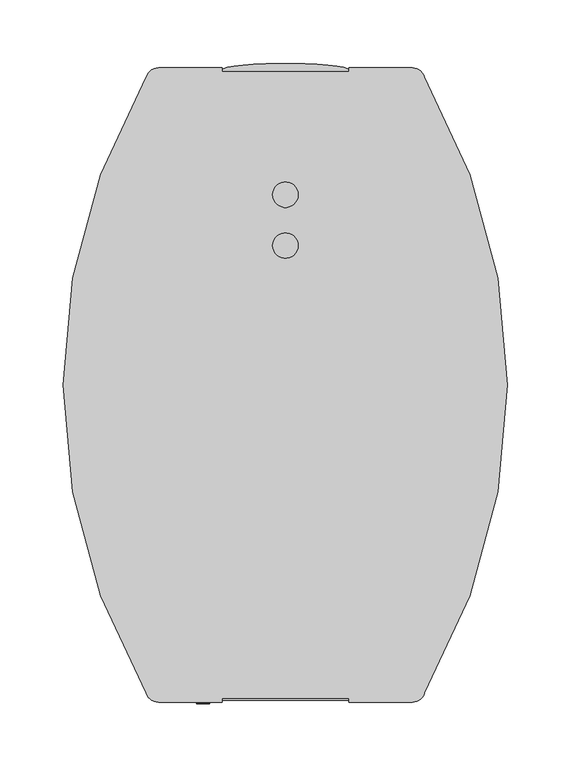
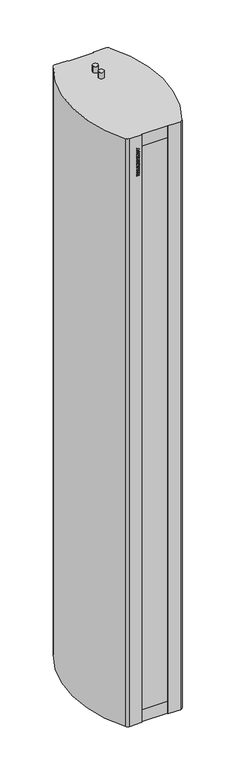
"""IFC4 building model written with IfcOpenShell, lengths in millimetres: proxy geometry, ADSK_Завеса дизайнерская_Водяная : KVC-S25W45-31."""

from ifc_helpers import new_model, si_unit, point, frame, origin, place, context, project, spatial, polyline, circle_curve, ellipse_curve, trimmed, outline, extrude, faceted_brep, source, transform, mapped, element, save
from ifc_brep_helpers import plane_surface, cylinder_surface, extruded_surface, advanced_brep


def mechanical_equipment_da6643d4(model_context):
    return source(origin(), model_context, "Body", "SolidModel", [
        extrude(outline(polyline([(2250.0784314, -70.0), (2250.0784314, -60.0), (2253.2156863, -60.0), (2253.2156863, -61.7647059), (2254.9865196, -63.7745098), (2256.8186275, -60.0), (2260.6666667, -60.0), (2257.192402, -66.2775735), (2260.4705882, -70.0), (2256.1997549, -70.0), (2253.2156863, -66.2224265), (2253.2156863, -70.0), (2250.0784314, -70.0)])), frame((0.0, -251.0, 0.0), z_axis=(0.0, 1.0, 0.0), x_axis=(0.0, 0.0, 1.0)), (0.0, 0.0, 1.0), 1.0),
        extrude(outline(polyline([(2267.6642157, -61.5686275), (2268.1176471, -60.0), (2271.4509804, -60.0), (2268.0778186, -70.0), (2264.0398284, -70.0), (2260.6666667, -60.0), (2264.0, -60.0), (2264.4319853, -61.5686275), (2267.6642157, -61.5686275)]), holes=[polyline([(2267.0698529, -63.9215686), (2265.0814951, -63.9215686), (2266.0588235, -67.4540441), (2267.0698529, -63.9215686)])]), frame((0.0, -251.0, 0.0), z_axis=(0.0, 1.0, 0.0), x_axis=(0.0, 0.0, 1.0)), (0.0, 0.0, 1.0), 1.0),
        extrude(outline(polyline([(2272.4313725, -70.0), (2272.4313725, -60.0), (2280.2745098, -60.0), (2280.2745098, -62.3529412), (2275.5686275, -62.3529412), (2275.5686275, -70.0), (2272.4313725, -70.0)])), frame((0.0, -251.0, 0.0), z_axis=(0.0, 1.0, 0.0), x_axis=(0.0, 0.0, 1.0)), (0.0, 0.0, 1.0), 1.0),
        extrude(outline(polyline([(2287.6642157, -61.5686275), (2288.1176471, -60.0), (2291.4509804, -60.0), (2288.0778186, -70.0), (2284.0398284, -70.0), (2280.6666667, -60.0), (2284.0, -60.0), (2284.4319853, -61.5686275), (2287.6642157, -61.5686275)]), holes=[polyline([(2287.0698529, -63.9215686), (2285.0814951, -63.9215686), (2286.0588235, -67.4540441), (2287.0698529, -63.9215686)])]), frame((0.0, -251.0, 0.0), z_axis=(0.0, 1.0, 0.0), x_axis=(0.0, 0.0, 1.0)), (0.0, 0.0, 1.0), 1.0),
        extrude(outline(polyline([(2291.8431373, -63.3394608), (2292.9491422, -60.8026961), (2296.4601716, -59.8039216), (2298.8560049, -60.2297794), (2300.3342525, -61.4813113), (2300.8627451, -63.28125), (2300.4675245, -64.7870711), (2299.2022059, -65.9129902), (2296.3223039, -66.8106618), (2296.1905637, -68.4313725), (2296.9641544, -68.1050858), (2297.3333333, -67.0588235), (2300.4705882, -67.2395833), (2299.2925858, -69.4883578), (2296.4172794, -70.1960784), (2293.9969363, -69.8039216), (2292.6749387, -68.7285539), (2292.2352941, -67.276348), (2293.1023284, -65.3492647), (2295.9761029, -64.1237745), (2297.7254902, -62.8186275), (2297.4114583, -62.0818015), (2296.5183824, -61.7647059), (2295.3204657, -62.3958333), (2294.9803922, -63.5294118), (2291.8431373, -63.3394608)])), frame((0.0, -251.0, 0.0), z_axis=(0.0, 1.0, 0.0), x_axis=(0.0, 0.0, 1.0)), (0.0, 0.0, 1.0), 1.0),
        extrude(outline(polyline([(2302.4313725, -70.0), (2302.4313725, -60.0), (2305.5686275, -60.0), (2305.5686275, -64.1176471), (2308.9019608, -64.1176471), (2308.9019608, -60.0), (2312.0392157, -60.0), (2312.0392157, -70.0), (2308.9019608, -70.0), (2308.9019608, -66.4705882), (2305.5686275, -66.4705882), (2305.5686275, -70.0), (2302.4313725, -70.0)])), frame((0.0, -251.0, 0.0), z_axis=(0.0, 1.0, 0.0), x_axis=(0.0, 0.0, 1.0)), (0.0, 0.0, 1.0), 1.0),
        extrude(outline(polyline([(2314.0, -70.0), (2314.0, -60.0), (2316.9411765, -60.0), (2316.9411765, -65.4901961), (2320.6666667, -60.0), (2323.6078431, -60.0), (2323.6078431, -70.0), (2320.6666667, -70.0), (2320.6666667, -64.4730392), (2316.9197304, -70.0), (2314.0, -70.0)])), frame((0.0, -251.0, 0.0), z_axis=(0.0, 1.0, 0.0), x_axis=(0.0, 0.0, 1.0)), (0.0, 0.0, 1.0), 1.0),
        extrude(outline(polyline([(-60.0, -251.0), (-70.0, -251.0), (-70.0, -250.0), (-60.0, -250.0), (-60.0, -251.0)])), frame((0.0, 0.0, 2325.7647059), z_axis=(0.0, 0.0, 1.0), x_axis=(1.0, 0.0, 0.0)), (0.0, 0.0, 1.0), 3.1372549),
        extrude(outline(polyline([(2331.0588235, -70.0), (2331.0588235, -60.0), (2334.1960784, -60.0), (2334.1960784, -61.7647059), (2335.9669118, -63.7745098), (2337.7990196, -60.0), (2341.6470588, -60.0), (2338.1727941, -66.2775735), (2341.4509804, -70.0), (2337.1801471, -70.0), (2334.1960784, -66.2224265), (2334.1960784, -70.0), (2331.0588235, -70.0)])), frame((0.0, -251.0, 0.0), z_axis=(0.0, 1.0, 0.0), x_axis=(0.0, 0.0, 1.0)), (0.0, 0.0, 1.0), 1.0),
        extrude(outline(polyline([(2342.2352941, -64.9938725), (2342.9261642, -62.0603554), (2344.7291667, -60.346201), (2347.5386029, -59.8039216), (2350.3250613, -60.4304534), (2352.036152, -62.1859681), (2352.627451, -65.0765931), (2351.2732843, -68.8495711), (2347.4129902, -70.1960784), (2343.6032475, -68.8250613), (2342.2352941, -64.9938725)]), holes=[polyline([(2345.372549, -64.9938725), (2345.9301471, -67.1813725), (2347.4068627, -67.8431373), (2348.9295343, -67.1920956), (2349.4901961, -65.1286765), (2348.9525123, -62.8048407), (2347.4344363, -62.1568627), (2345.9270833, -62.8186275), (2345.372549, -64.9938725)])]), frame((0.0, -251.0, 0.0), z_axis=(0.0, 1.0, 0.0), x_axis=(0.0, 0.0, 1.0)), (0.0, 0.0, 1.0), 1.0),
        extrude(outline(polyline([(2353.4117647, -70.0), (2357.1280637, -60.0), (2360.4583333, -60.0), (2364.1960784, -70.0), (2360.8627451, -70.0), (2358.8039216, -62.8033088), (2356.7420343, -70.0), (2353.4117647, -70.0)])), frame((0.0, -251.0, 0.0), z_axis=(0.0, 1.0, 0.0), x_axis=(0.0, 0.0, 1.0)), (0.0, 0.0, 1.0), 1.0),
        advanced_brep(
        [(-50.0, 250.0, 2414.0), (-100.0, 250.0, 2414.0), (-109.6523684, 242.6137681, 2414.0), (-109.6523684, -242.6137681, 2414.0), (-100.0, -250.0, 2414.0), (-50.0, -250.0, 2414.0), (-50.0, -247.0, 2414.0), (50.0, -247.0, 2414.0), (50.0, -250.0, 2414.0), (100.0, -250.0, 2414.0), (109.6523684, -242.6137681, 2414.0), (109.6523684, 242.6137681, 2414.0), (100.0, 250.0, 2414.0), (50.0, 250.0, 2414.0), (50.0, 247.0, 2414.0), (-50.0, 247.0, 2414.0), (10.0, 150.0, 2414.0), (-10.0, 150.0, 2414.0), (10.0, 110.0, 2414.0), (-10.0, 110.0, 2414.0), (-50.0, 250.0, 0.0), (-50.0, 247.0, 0.0), (50.0, 247.0, 0.0), (50.0, 250.0, 0.0), (100.0, 250.0, 0.0), (109.6523684, 242.6137681, 0.0), (109.6523684, -242.6137681, 0.0), (100.0, -250.0, 0.0), (50.0, -250.0, 0.0), (50.0, -247.0, 0.0), (-50.0, -247.0, 0.0), (-50.0, -250.0, 0.0), (-100.0, -250.0, 0.0), (-109.6523684, -242.6137681, 0.0), (-109.6523684, 242.6137681, 0.0), (-100.0, 250.0, 0.0), (-10.0, 150.0, 2439.0), (10.0, 150.0, 2439.0), (-10.0, 110.0, 2439.0), (10.0, 110.0, 2439.0)],
        [
            (0, 1),
            (1, 2, circle_curve(frame((-100.0, 240.0, 2414.0), z_axis=(0.0, 0.0, 1.0), x_axis=(1.0, 0.0, 0.0)), 10.0)),
            (2, 3, circle_curve(frame((308.0454594, 0.0, 2414.0), z_axis=(0.0, 0.0, 1.0), x_axis=(1.0, 0.0, 0.0)), 483.0454594)),
            (3, 4, circle_curve(frame((-100.0, -240.0, 2414.0), z_axis=(0.0, 0.0, 1.0), x_axis=(1.0, 0.0, 0.0)), 10.0)),
            (4, 5),
            (5, 6),
            (6, 7),
            (7, 8),
            (8, 9),
            (9, 10, circle_curve(frame((100.0, -240.0, 2414.0), z_axis=(0.0, 0.0, 1.0), x_axis=(1.0, 0.0, 0.0)), 10.0)),
            (10, 11, circle_curve(frame((-308.0454594, 0.0, 2414.0), z_axis=(0.0, 0.0, 1.0), x_axis=(1.0, 0.0, 0.0)), 483.0454594)),
            (11, 12, circle_curve(frame((100.0, 240.0, 2414.0), z_axis=(0.0, 0.0, 1.0), x_axis=(1.0, 0.0, 0.0)), 10.0)),
            (12, 13),
            (13, 14),
            (14, 15),
            (15, 0),
            (16, 17, circle_curve(frame((0.0, 150.0, 2414.0), z_axis=(0.0, 0.0, -1.0), x_axis=(1.0, 0.0, 0.0)), 10.0)),
            (17, 16, circle_curve(frame((0.0, 150.0, 2414.0), z_axis=(0.0, 0.0, -1.0), x_axis=(1.0, 0.0, 0.0)), 10.0)),
            (18, 19, circle_curve(frame((0.0, 110.0, 2414.0), z_axis=(0.0, 0.0, -1.0), x_axis=(1.0, 0.0, 0.0)), 10.0)),
            (19, 18, circle_curve(frame((0.0, 110.0, 2414.0), z_axis=(0.0, 0.0, -1.0), x_axis=(1.0, 0.0, 0.0)), 10.0)),
            (20, 21),
            (21, 22),
            (22, 23),
            (23, 24),
            (24, 25, circle_curve(frame((100.0, 240.0, 0.0), z_axis=(0.0, 0.0, -1.0), x_axis=(1.0, 0.0, 0.0)), 10.0)),
            (25, 26, circle_curve(frame((-308.0454594, 0.0, 0.0), z_axis=(0.0, 0.0, -1.0), x_axis=(1.0, 0.0, 0.0)), 483.0454594)),
            (26, 27, circle_curve(frame((100.0, -240.0, 0.0), z_axis=(0.0, 0.0, -1.0), x_axis=(1.0, 0.0, 0.0)), 10.0)),
            (27, 28),
            (28, 29),
            (29, 30),
            (30, 31),
            (31, 32),
            (32, 33, circle_curve(frame((-100.0, -240.0, 0.0), z_axis=(0.0, 0.0, -1.0), x_axis=(1.0, 0.0, 0.0)), 10.0)),
            (33, 34, circle_curve(frame((308.0454594, 0.0, 0.0), z_axis=(0.0, 0.0, -1.0), x_axis=(1.0, 0.0, 0.0)), 483.0454594)),
            (34, 35, circle_curve(frame((-100.0, 240.0, 0.0), z_axis=(0.0, 0.0, -1.0), x_axis=(1.0, 0.0, 0.0)), 10.0)),
            (35, 20),
            (0, 20),
            (35, 1),
            (34, 2),
            (33, 3),
            (32, 4),
            (8, 28),
            (27, 9),
            (31, 5),
            (30, 6),
            (29, 7),
            (12, 24),
            (23, 13),
            (22, 14),
            (21, 15),
            (36, 37, circle_curve(frame((0.0, 150.0, 2439.0), z_axis=(0.0, 0.0, 1.0), x_axis=(1.0, 0.0, 0.0)), 10.0)),
            (37, 36, circle_curve(frame((0.0, 150.0, 2439.0), z_axis=(0.0, 0.0, 1.0), x_axis=(1.0, 0.0, 0.0)), 10.0)),
            (38, 39, circle_curve(frame((0.0, 110.0, 2439.0), z_axis=(0.0, 0.0, 1.0), x_axis=(1.0, 0.0, 0.0)), 10.0)),
            (39, 38, circle_curve(frame((0.0, 110.0, 2439.0), z_axis=(0.0, 0.0, 1.0), x_axis=(1.0, 0.0, 0.0)), 10.0)),
            (36, 17),
            (16, 37),
            (38, 19),
            (18, 39),
            (26, 10),
            (25, 11),
        ],
        [
            plane_surface(frame((-93.2688019, 250.0, 2414.0), z_axis=(0.0, 0.0, 1.0), x_axis=(-1.0, 0.0, 0.0))),
            plane_surface(frame((-93.2688019, 250.0, 0.0), z_axis=(0.0, 0.0, -1.0), x_axis=(1.0, 0.0, 0.0))),
            plane_surface(frame((-50.0, 250.0, 2414.0), z_axis=(0.0, 1.0, 0.0), x_axis=(0.0, 0.0, -1.0))),
            cylinder_surface(frame((-100.0, 240.0, 0.0), z_axis=(0.0, 0.0, 1.0), x_axis=(1.0, 0.0, 0.0)), 10.0),
            cylinder_surface(frame((308.0454594, 0.0, 0.0), z_axis=(0.0, 0.0, 1.0), x_axis=(1.0, 0.0, 0.0)), 483.0454594),
            cylinder_surface(frame((-100.0, -240.0, 0.0), z_axis=(0.0, 0.0, 1.0), x_axis=(1.0, 0.0, 0.0)), 10.0),
            plane_surface(frame((50.0, -250.0, 2414.0), z_axis=(0.0, -1.0, 0.0), x_axis=(0.0, 0.0, -1.0))),
            plane_surface(frame((-100.0, -250.0, 2414.0), z_axis=(0.0, -1.0, 0.0), x_axis=(0.0, 0.0, -1.0))),
            plane_surface(frame((-50.0, -250.0, 2414.0), z_axis=(1.0, 0.0, 0.0), x_axis=(0.0, 0.0, -1.0))),
            plane_surface(frame((-50.0, -247.0, 2414.0), z_axis=(0.0, -1.0, 0.0), x_axis=(0.0, 0.0, -1.0))),
            plane_surface(frame((50.0, -247.0, 2414.0), z_axis=(-1.0, 0.0, 0.0), x_axis=(0.0, 0.0, -1.0))),
            plane_surface(frame((100.0, 250.0, 2414.0), z_axis=(0.0, 1.0, 0.0), x_axis=(0.0, 0.0, -1.0))),
            plane_surface(frame((50.0, 250.0, 2414.0), z_axis=(-1.0, 0.0, 0.0), x_axis=(0.0, 0.0, -1.0))),
            plane_surface(frame((50.0, 247.0, 2414.0), z_axis=(0.0, 1.0, 0.0), x_axis=(0.0, 0.0, -1.0))),
            plane_surface(frame((-50.0, 247.0, 2414.0), z_axis=(1.0, 0.0, 0.0), x_axis=(0.0, 0.0, -1.0))),
            plane_surface(frame((10.0, 150.0, 2439.0), z_axis=(0.0, 0.0, 1.0), x_axis=(0.0, 1.0, 0.0))),
            cylinder_surface(frame((0.0, 150.0, 2414.0), z_axis=(0.0, 0.0, 1.0), x_axis=(1.0, 0.0, 0.0)), 10.0),
            cylinder_surface(frame((0.0, 110.0, 0.0), z_axis=(0.0, 0.0, 1.0), x_axis=(1.0, 0.0, 0.0)), 10.0),
            cylinder_surface(frame((100.0, -240.0, 0.0), z_axis=(0.0, 0.0, 1.0), x_axis=(1.0, 0.0, 0.0)), 10.0),
            cylinder_surface(frame((-308.0454594, 0.0, 0.0), z_axis=(0.0, 0.0, 1.0), x_axis=(1.0, 0.0, 0.0)), 483.0454594),
            cylinder_surface(frame((100.0, 240.0, 0.0), z_axis=(0.0, 0.0, 1.0), x_axis=(1.0, 0.0, 0.0)), 10.0),
        ],
        [
            (0, [[1, 2, 3, 4, 5, 6, 7, 8, 9, 10, 11, 12, 13, 14, 15, 16], [17, 18], [19, 20]]),
            (1, [[21, 22, 23, 24, 25, 26, 27, 28, 29, 30, 31, 32, 33, 34, 35, 36]]),
            (2, [[-1, 37, -36, 38]]),
            (3, [[-2, -38, -35, 39]]),
            (4, [[-3, -39, -34, 40]]),
            (5, [[-4, -40, -33, 41]]),
            (6, [[-9, 42, -28, 43]]),
            (7, [[-5, -41, -32, 44]]),
            (8, [[-6, -44, -31, 45]]),
            (9, [[-7, -45, -30, 46]]),
            (10, [[-8, -46, -29, -42]]),
            (11, [[-13, 47, -24, 48]]),
            (12, [[-14, -48, -23, 49]]),
            (13, [[-15, -49, -22, 50]]),
            (14, [[-16, -50, -21, -37]]),
            (15, [[51, 52]]),
            (15, [[53, 54]]),
            (16, [[-51, 55, -17, 56]]),
            (16, [[-52, -56, -18, -55]]),
            (17, [[-53, 57, -19, 58]]),
            (17, [[-54, -58, -20, -57]]),
            (18, [[-10, -43, -27, 59]]),
            (19, [[-11, -59, -26, 60]]),
            (20, [[-12, -60, -25, -47]]),
        ],
    ),
        faceted_brep([(50.0, -247.0, 2364.0), (-50.0, -247.0, 2364.0), (-50.0, -248.5, 2364.0), (50.0, -248.5, 2364.0), (50.0, -247.0, 50.0), (50.0, -248.5, 50.0), (-50.0, -248.5, 50.0), (-50.0, -247.0, 50.0)], [[[0, 1, 2, 3]], [[4, 5, 6, 7]], [[1, 0, 4, 7]], [[2, 1, 7, 6]], [[3, 2, 6, 5]], [[0, 3, 5, 4]]]),
        advanced_brep(
        [(-50.0, 248.5, 2364.0), (-50.0, 247.0, 2364.0), (50.0, 247.0, 2364.0), (50.0, 248.5, 2364.0), (-50.0, 248.5, 50.0), (50.0, 248.5, 50.0), (50.0, 247.0, 50.0), (-50.0, 247.0, 50.0)],
        [
            (0, 1),
            (1, 2),
            (2, 3),
            (3, 0, ellipse_curve(frame((0.0, 248.5, 2364.0), z_axis=(0.0, 0.0, 1.0), x_axis=(-1.0, 0.0, 0.0)), 50.0, 5.0)),
            (4, 5, ellipse_curve(frame((0.0, 248.5, 50.0), z_axis=(0.0, 0.0, -1.0), x_axis=(-1.0, 0.0, 0.0)), 50.0, 5.0)),
            (5, 6),
            (6, 7),
            (7, 4),
            (0, 4),
            (7, 1),
            (6, 2),
            (5, 3),
        ],
        [
            plane_surface(frame((-50.0, -247.0, 2364.0), z_axis=(0.0, 0.0, 1.0), x_axis=(-1.0, 0.0, 0.0))),
            plane_surface(frame((-50.0, -247.0, 50.0), z_axis=(0.0, 0.0, -1.0), x_axis=(1.0, 0.0, 0.0))),
            plane_surface(frame((-50.0, 248.5, 2364.0), z_axis=(-1.0, 0.0, 0.0), x_axis=(0.0, 0.0, -1.0))),
            plane_surface(frame((-50.0, 247.0, 2364.0), z_axis=(0.0, -1.0, 0.0), x_axis=(0.0, 0.0, -1.0))),
            plane_surface(frame((50.0, 247.0, 2364.0), z_axis=(1.0, 0.0, 0.0), x_axis=(0.0, 0.0, -1.0))),
            extruded_surface(trimmed(ellipse_curve(frame((0.0, 248.5, -2314.0), z_axis=(0.0, 0.0, 1.0), x_axis=(-1.0, 0.0, 0.0)), 50.0, 5.0), [point((50.0, 248.5, -2314.0))], [point((-50.0, 248.5, -2314.0))], True, "CARTESIAN"), (0.0, 0.0, 2314.0), 2314.0),
        ],
        [
            (0, [[1, 2, 3, 4]]),
            (1, [[5, 6, 7, 8]]),
            (2, [[-1, 9, -8, 10]]),
            (3, [[-2, -10, -7, 11]]),
            (4, [[-3, -11, -6, 12]]),
            (5, [[-4, -12, -5, -9]]),
        ],
    ),
    ])


if __name__ == "__main__":
    model = new_model("IFC4")
    model_context = context("Model", 3, world=origin())
    ifc_project = project(units=[si_unit("LENGTHUNIT", "METRE", prefix="MILLI")], contexts=[model_context])
    site = spatial("IfcSite", under=ifc_project)
    building = spatial("IfcBuilding", under=site)
    placement = place(None, origin())
    mechanical_equipment_shape = mechanical_equipment_da6643d4(model_context)
    element("IfcBuildingElementProxy", 1, Name="ADSK_Завеса дизайнерская_Водяная : KVC-S25W45-31", ObjectType="ADSK_Завеса дизайнерская_Водяная : KVC-S25W45-31", at=placement, inside=building, context=model_context, shape_type="MappedRepresentation", body=[
        mapped(mechanical_equipment_shape, transform((0.0, 0.0, 0.0), x_axis=(1.0, 0.0, 0.0), y_axis=(0.0, 1.0, 0.0), z_axis=(0.0, 0.0, 1.0))),
    ])
    save(model, "model.ifc")
